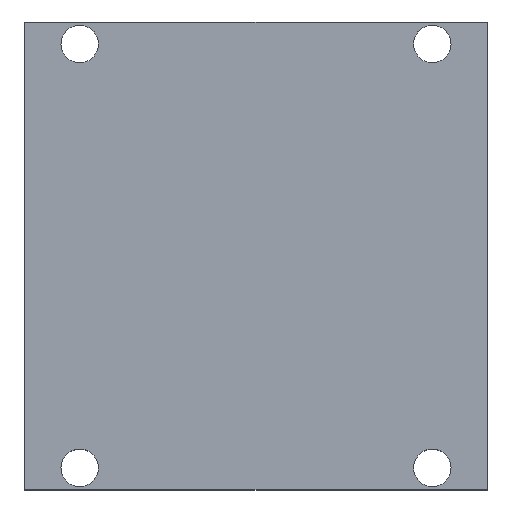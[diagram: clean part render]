
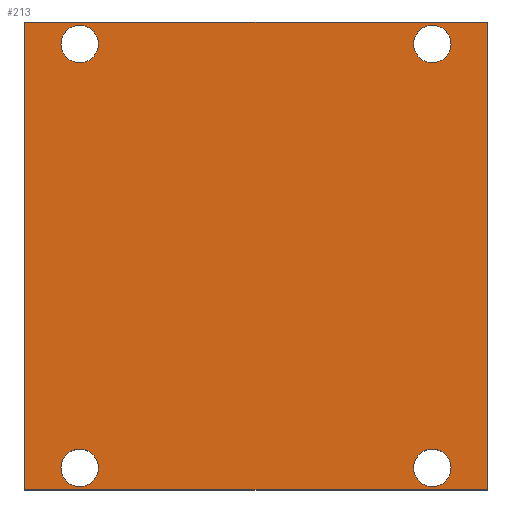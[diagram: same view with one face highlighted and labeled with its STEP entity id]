
A CAD part, top view. The second image highlights one B-rep face of the part: STEP entity #213.
In plain terms, the highlighted planar face has unit normal (0, 0, 1).
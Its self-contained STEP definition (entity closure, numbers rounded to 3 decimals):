
#24 = VERTEX_POINT('',#25);
#25 = CARTESIAN_POINT('',(14.,-57.225,32.));
#32 = PLANE('',#33);
#33 = AXIS2_PLACEMENT_3D('',#34,#35,#36);
#34 = CARTESIAN_POINT('',(14.,-57.225,26.));
#35 = DIRECTION('',(1.,0.,0.));
#36 = DIRECTION('',(0.,0.,1.));
#44 = PLANE('',#45);
#45 = AXIS2_PLACEMENT_3D('',#46,#47,#48);
#46 = CARTESIAN_POINT('',(14.,-57.225,26.));
#47 = DIRECTION('',(0.,1.,0.));
#48 = DIRECTION('',(0.,0.,1.));
#85 = VERTEX_POINT('',#86);
#86 = CARTESIAN_POINT('',(14.,-14.775,32.));
#100 = PLANE('',#101);
#101 = AXIS2_PLACEMENT_3D('',#102,#103,#104);
#102 = CARTESIAN_POINT('',(14.,-14.775,26.));
#103 = DIRECTION('',(0.,1.,0.));
#104 = DIRECTION('',(0.,0.,1.));
#112 = EDGE_CURVE('',#24,#85,#113,.T.);
#113 = SURFACE_CURVE('',#114,(#118,#125),.PCURVE_S1.);
#114 = LINE('',#115,#116);
#115 = CARTESIAN_POINT('',(14.,-57.225,32.));
#116 = VECTOR('',#117,1.);
#117 = DIRECTION('',(0.,1.,0.));
#118 = PCURVE('',#32,#119);
#119 = DEFINITIONAL_REPRESENTATION('',(#120),#124);
#120 = LINE('',#121,#122);
#121 = CARTESIAN_POINT('',(6.,0.));
#122 = VECTOR('',#123,1.);
#123 = DIRECTION('',(0.,-1.));
#124 = ( GEOMETRIC_REPRESENTATION_CONTEXT(2) 
PARAMETRIC_REPRESENTATION_CONTEXT() REPRESENTATION_CONTEXT('2D SPACE',''
  ) );
#125 = PCURVE('',#126,#131);
#126 = PLANE('',#127);
#127 = AXIS2_PLACEMENT_3D('',#128,#129,#130);
#128 = CARTESIAN_POINT('',(14.,-57.225,32.));
#129 = DIRECTION('',(0.,0.,1.));
#130 = DIRECTION('',(1.,0.,0.));
#131 = DEFINITIONAL_REPRESENTATION('',(#132),#136);
#132 = LINE('',#133,#134);
#133 = CARTESIAN_POINT('',(0.,0.));
#134 = VECTOR('',#135,1.);
#135 = DIRECTION('',(0.,1.));
#136 = ( GEOMETRIC_REPRESENTATION_CONTEXT(2) 
PARAMETRIC_REPRESENTATION_CONTEXT() REPRESENTATION_CONTEXT('2D SPACE',''
  ) );
#165 = EDGE_CURVE('',#24,#166,#168,.T.);
#166 = VERTEX_POINT('',#167);
#167 = CARTESIAN_POINT('',(56.,-57.225,32.));
#168 = SURFACE_CURVE('',#169,(#173,#180),.PCURVE_S1.);
#169 = LINE('',#170,#171);
#170 = CARTESIAN_POINT('',(14.,-57.225,32.));
#171 = VECTOR('',#172,1.);
#172 = DIRECTION('',(1.,0.,0.));
#173 = PCURVE('',#44,#174);
#174 = DEFINITIONAL_REPRESENTATION('',(#175),#179);
#175 = LINE('',#176,#177);
#176 = CARTESIAN_POINT('',(6.,0.));
#177 = VECTOR('',#178,1.);
#178 = DIRECTION('',(0.,1.));
#179 = ( GEOMETRIC_REPRESENTATION_CONTEXT(2) 
PARAMETRIC_REPRESENTATION_CONTEXT() REPRESENTATION_CONTEXT('2D SPACE',''
  ) );
#180 = PCURVE('',#126,#181);
#181 = DEFINITIONAL_REPRESENTATION('',(#182),#186);
#182 = LINE('',#183,#184);
#183 = CARTESIAN_POINT('',(0.,0.));
#184 = VECTOR('',#185,1.);
#185 = DIRECTION('',(1.,0.));
#186 = ( GEOMETRIC_REPRESENTATION_CONTEXT(2) 
PARAMETRIC_REPRESENTATION_CONTEXT() REPRESENTATION_CONTEXT('2D SPACE',''
  ) );
#202 = PLANE('',#203);
#203 = AXIS2_PLACEMENT_3D('',#204,#205,#206);
#204 = CARTESIAN_POINT('',(56.,-57.225,26.));
#205 = DIRECTION('',(1.,0.,0.));
#206 = DIRECTION('',(0.,0.,1.));
#213 = ADVANCED_FACE('',(#214,#262,#293,#324,#355),#126,.T.);
#214 = FACE_BOUND('',#215,.T.);
#215 = EDGE_LOOP('',(#216,#217,#218,#241));
#216 = ORIENTED_EDGE('',*,*,#112,.F.);
#217 = ORIENTED_EDGE('',*,*,#165,.T.);
#218 = ORIENTED_EDGE('',*,*,#219,.T.);
#219 = EDGE_CURVE('',#166,#220,#222,.T.);
#220 = VERTEX_POINT('',#221);
#221 = CARTESIAN_POINT('',(56.,-14.775,32.));
#222 = SURFACE_CURVE('',#223,(#227,#234),.PCURVE_S1.);
#223 = LINE('',#224,#225);
#224 = CARTESIAN_POINT('',(56.,-57.225,32.));
#225 = VECTOR('',#226,1.);
#226 = DIRECTION('',(0.,1.,0.));
#227 = PCURVE('',#126,#228);
#228 = DEFINITIONAL_REPRESENTATION('',(#229),#233);
#229 = LINE('',#230,#231);
#230 = CARTESIAN_POINT('',(42.,0.));
#231 = VECTOR('',#232,1.);
#232 = DIRECTION('',(0.,1.));
#233 = ( GEOMETRIC_REPRESENTATION_CONTEXT(2) 
PARAMETRIC_REPRESENTATION_CONTEXT() REPRESENTATION_CONTEXT('2D SPACE',''
  ) );
#234 = PCURVE('',#202,#235);
#235 = DEFINITIONAL_REPRESENTATION('',(#236),#240);
#236 = LINE('',#237,#238);
#237 = CARTESIAN_POINT('',(6.,0.));
#238 = VECTOR('',#239,1.);
#239 = DIRECTION('',(0.,-1.));
#240 = ( GEOMETRIC_REPRESENTATION_CONTEXT(2) 
PARAMETRIC_REPRESENTATION_CONTEXT() REPRESENTATION_CONTEXT('2D SPACE',''
  ) );
#241 = ORIENTED_EDGE('',*,*,#242,.F.);
#242 = EDGE_CURVE('',#85,#220,#243,.T.);
#243 = SURFACE_CURVE('',#244,(#248,#255),.PCURVE_S1.);
#244 = LINE('',#245,#246);
#245 = CARTESIAN_POINT('',(14.,-14.775,32.));
#246 = VECTOR('',#247,1.);
#247 = DIRECTION('',(1.,0.,0.));
#248 = PCURVE('',#126,#249);
#249 = DEFINITIONAL_REPRESENTATION('',(#250),#254);
#250 = LINE('',#251,#252);
#251 = CARTESIAN_POINT('',(0.,42.45));
#252 = VECTOR('',#253,1.);
#253 = DIRECTION('',(1.,0.));
#254 = ( GEOMETRIC_REPRESENTATION_CONTEXT(2) 
PARAMETRIC_REPRESENTATION_CONTEXT() REPRESENTATION_CONTEXT('2D SPACE',''
  ) );
#255 = PCURVE('',#100,#256);
#256 = DEFINITIONAL_REPRESENTATION('',(#257),#261);
#257 = LINE('',#258,#259);
#258 = CARTESIAN_POINT('',(6.,0.));
#259 = VECTOR('',#260,1.);
#260 = DIRECTION('',(0.,1.));
#261 = ( GEOMETRIC_REPRESENTATION_CONTEXT(2) 
PARAMETRIC_REPRESENTATION_CONTEXT() REPRESENTATION_CONTEXT('2D SPACE',''
  ) );
#262 = FACE_BOUND('',#263,.T.);
#263 = EDGE_LOOP('',(#264));
#264 = ORIENTED_EDGE('',*,*,#265,.F.);
#265 = EDGE_CURVE('',#266,#266,#268,.T.);
#266 = VERTEX_POINT('',#267);
#267 = CARTESIAN_POINT('',(20.7,-55.225,32.));
#268 = SURFACE_CURVE('',#269,(#274,#281),.PCURVE_S1.);
#269 = CIRCLE('',#270,1.7);
#270 = AXIS2_PLACEMENT_3D('',#271,#272,#273);
#271 = CARTESIAN_POINT('',(19.,-55.225,32.));
#272 = DIRECTION('',(0.,0.,1.));
#273 = DIRECTION('',(1.,0.,-0.));
#274 = PCURVE('',#126,#275);
#275 = DEFINITIONAL_REPRESENTATION('',(#276),#280);
#276 = CIRCLE('',#277,1.7);
#277 = AXIS2_PLACEMENT_2D('',#278,#279);
#278 = CARTESIAN_POINT('',(5.,2.));
#279 = DIRECTION('',(1.,0.));
#280 = ( GEOMETRIC_REPRESENTATION_CONTEXT(2) 
PARAMETRIC_REPRESENTATION_CONTEXT() REPRESENTATION_CONTEXT('2D SPACE',''
  ) );
#281 = PCURVE('',#282,#287);
#282 = CYLINDRICAL_SURFACE('',#283,1.7);
#283 = AXIS2_PLACEMENT_3D('',#284,#285,#286);
#284 = CARTESIAN_POINT('',(19.,-55.225,20.));
#285 = DIRECTION('',(0.,0.,1.));
#286 = DIRECTION('',(1.,0.,0.));
#287 = DEFINITIONAL_REPRESENTATION('',(#288),#292);
#288 = LINE('',#289,#290);
#289 = CARTESIAN_POINT('',(0.,12.));
#290 = VECTOR('',#291,1.);
#291 = DIRECTION('',(1.,0.));
#292 = ( GEOMETRIC_REPRESENTATION_CONTEXT(2) 
PARAMETRIC_REPRESENTATION_CONTEXT() REPRESENTATION_CONTEXT('2D SPACE',''
  ) );
#293 = FACE_BOUND('',#294,.T.);
#294 = EDGE_LOOP('',(#295));
#295 = ORIENTED_EDGE('',*,*,#296,.F.);
#296 = EDGE_CURVE('',#297,#297,#299,.T.);
#297 = VERTEX_POINT('',#298);
#298 = CARTESIAN_POINT('',(52.7,-55.225,32.));
#299 = SURFACE_CURVE('',#300,(#305,#312),.PCURVE_S1.);
#300 = CIRCLE('',#301,1.7);
#301 = AXIS2_PLACEMENT_3D('',#302,#303,#304);
#302 = CARTESIAN_POINT('',(51.,-55.225,32.));
#303 = DIRECTION('',(0.,0.,1.));
#304 = DIRECTION('',(1.,0.,-0.));
#305 = PCURVE('',#126,#306);
#306 = DEFINITIONAL_REPRESENTATION('',(#307),#311);
#307 = CIRCLE('',#308,1.7);
#308 = AXIS2_PLACEMENT_2D('',#309,#310);
#309 = CARTESIAN_POINT('',(37.,2.));
#310 = DIRECTION('',(1.,0.));
#311 = ( GEOMETRIC_REPRESENTATION_CONTEXT(2) 
PARAMETRIC_REPRESENTATION_CONTEXT() REPRESENTATION_CONTEXT('2D SPACE',''
  ) );
#312 = PCURVE('',#313,#318);
#313 = CYLINDRICAL_SURFACE('',#314,1.7);
#314 = AXIS2_PLACEMENT_3D('',#315,#316,#317);
#315 = CARTESIAN_POINT('',(51.,-55.225,20.));
#316 = DIRECTION('',(0.,0.,1.));
#317 = DIRECTION('',(1.,0.,0.));
#318 = DEFINITIONAL_REPRESENTATION('',(#319),#323);
#319 = LINE('',#320,#321);
#320 = CARTESIAN_POINT('',(0.,12.));
#321 = VECTOR('',#322,1.);
#322 = DIRECTION('',(1.,0.));
#323 = ( GEOMETRIC_REPRESENTATION_CONTEXT(2) 
PARAMETRIC_REPRESENTATION_CONTEXT() REPRESENTATION_CONTEXT('2D SPACE',''
  ) );
#324 = FACE_BOUND('',#325,.T.);
#325 = EDGE_LOOP('',(#326));
#326 = ORIENTED_EDGE('',*,*,#327,.F.);
#327 = EDGE_CURVE('',#328,#328,#330,.T.);
#328 = VERTEX_POINT('',#329);
#329 = CARTESIAN_POINT('',(20.7,-16.775,32.));
#330 = SURFACE_CURVE('',#331,(#336,#343),.PCURVE_S1.);
#331 = CIRCLE('',#332,1.7);
#332 = AXIS2_PLACEMENT_3D('',#333,#334,#335);
#333 = CARTESIAN_POINT('',(19.,-16.775,32.));
#334 = DIRECTION('',(0.,0.,1.));
#335 = DIRECTION('',(1.,0.,-0.));
#336 = PCURVE('',#126,#337);
#337 = DEFINITIONAL_REPRESENTATION('',(#338),#342);
#338 = CIRCLE('',#339,1.7);
#339 = AXIS2_PLACEMENT_2D('',#340,#341);
#340 = CARTESIAN_POINT('',(5.,40.45));
#341 = DIRECTION('',(1.,0.));
#342 = ( GEOMETRIC_REPRESENTATION_CONTEXT(2) 
PARAMETRIC_REPRESENTATION_CONTEXT() REPRESENTATION_CONTEXT('2D SPACE',''
  ) );
#343 = PCURVE('',#344,#349);
#344 = CYLINDRICAL_SURFACE('',#345,1.7);
#345 = AXIS2_PLACEMENT_3D('',#346,#347,#348);
#346 = CARTESIAN_POINT('',(19.,-16.775,20.));
#347 = DIRECTION('',(0.,0.,1.));
#348 = DIRECTION('',(1.,0.,0.));
#349 = DEFINITIONAL_REPRESENTATION('',(#350),#354);
#350 = LINE('',#351,#352);
#351 = CARTESIAN_POINT('',(0.,12.));
#352 = VECTOR('',#353,1.);
#353 = DIRECTION('',(1.,0.));
#354 = ( GEOMETRIC_REPRESENTATION_CONTEXT(2) 
PARAMETRIC_REPRESENTATION_CONTEXT() REPRESENTATION_CONTEXT('2D SPACE',''
  ) );
#355 = FACE_BOUND('',#356,.T.);
#356 = EDGE_LOOP('',(#357));
#357 = ORIENTED_EDGE('',*,*,#358,.F.);
#358 = EDGE_CURVE('',#359,#359,#361,.T.);
#359 = VERTEX_POINT('',#360);
#360 = CARTESIAN_POINT('',(52.7,-16.775,32.));
#361 = SURFACE_CURVE('',#362,(#367,#374),.PCURVE_S1.);
#362 = CIRCLE('',#363,1.7);
#363 = AXIS2_PLACEMENT_3D('',#364,#365,#366);
#364 = CARTESIAN_POINT('',(51.,-16.775,32.));
#365 = DIRECTION('',(0.,0.,1.));
#366 = DIRECTION('',(1.,0.,-0.));
#367 = PCURVE('',#126,#368);
#368 = DEFINITIONAL_REPRESENTATION('',(#369),#373);
#369 = CIRCLE('',#370,1.7);
#370 = AXIS2_PLACEMENT_2D('',#371,#372);
#371 = CARTESIAN_POINT('',(37.,40.45));
#372 = DIRECTION('',(1.,0.));
#373 = ( GEOMETRIC_REPRESENTATION_CONTEXT(2) 
PARAMETRIC_REPRESENTATION_CONTEXT() REPRESENTATION_CONTEXT('2D SPACE',''
  ) );
#374 = PCURVE('',#375,#380);
#375 = CYLINDRICAL_SURFACE('',#376,1.7);
#376 = AXIS2_PLACEMENT_3D('',#377,#378,#379);
#377 = CARTESIAN_POINT('',(51.,-16.775,20.));
#378 = DIRECTION('',(0.,0.,1.));
#379 = DIRECTION('',(1.,0.,0.));
#380 = DEFINITIONAL_REPRESENTATION('',(#381),#385);
#381 = LINE('',#382,#383);
#382 = CARTESIAN_POINT('',(0.,12.));
#383 = VECTOR('',#384,1.);
#384 = DIRECTION('',(1.,0.));
#385 = ( GEOMETRIC_REPRESENTATION_CONTEXT(2) 
PARAMETRIC_REPRESENTATION_CONTEXT() REPRESENTATION_CONTEXT('2D SPACE',''
  ) );
